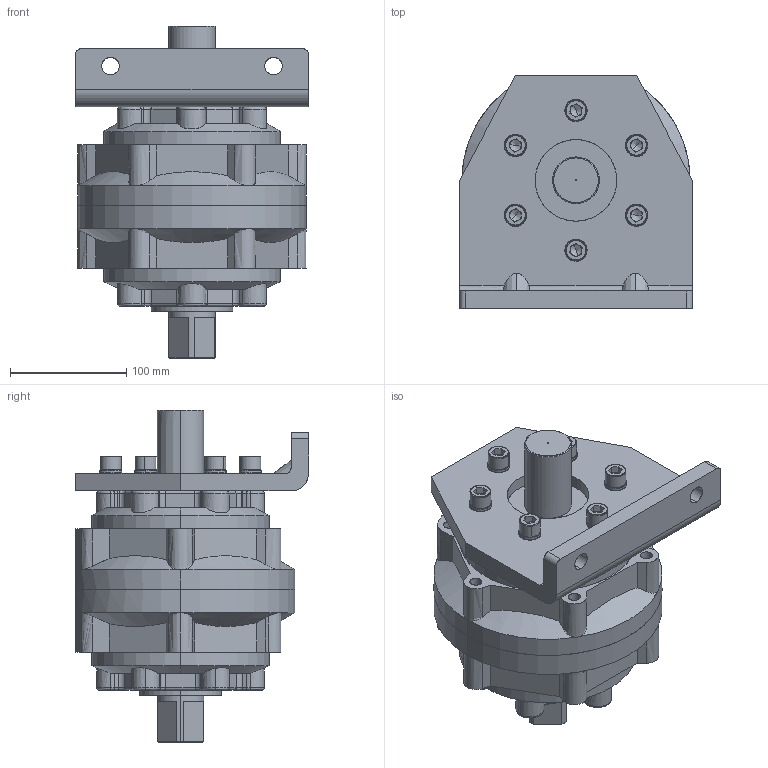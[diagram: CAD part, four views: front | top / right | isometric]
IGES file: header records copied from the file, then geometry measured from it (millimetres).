
Start section: SolidWorks IGES file using analytic representation for surfaces
Global section: file name: C:\Users\Chieh_Lu\Dropbox\¤u§@«Ç\PRN50-150-300-800\PRN800\PRN800\PRN800#-#-#-L1.IGS; native system: SolidWorks 2014; preprocessor: SolidWorks 2014; author: Chieh_Lu; date: 160115.005018; units: millimetre
Bounding box: 200 x 200.2 x 285 mm (x, y, z)
Surface area: 408175.5 mm2 (no closed solid volume)
Topology: 0 solids, 0 shells, 755 faces, 10084 edges, 10044 vertices
Faces by surface type: bspline 395, revolution 360
